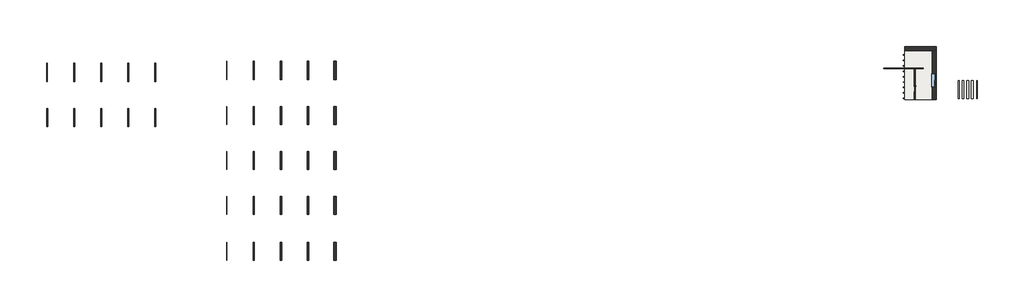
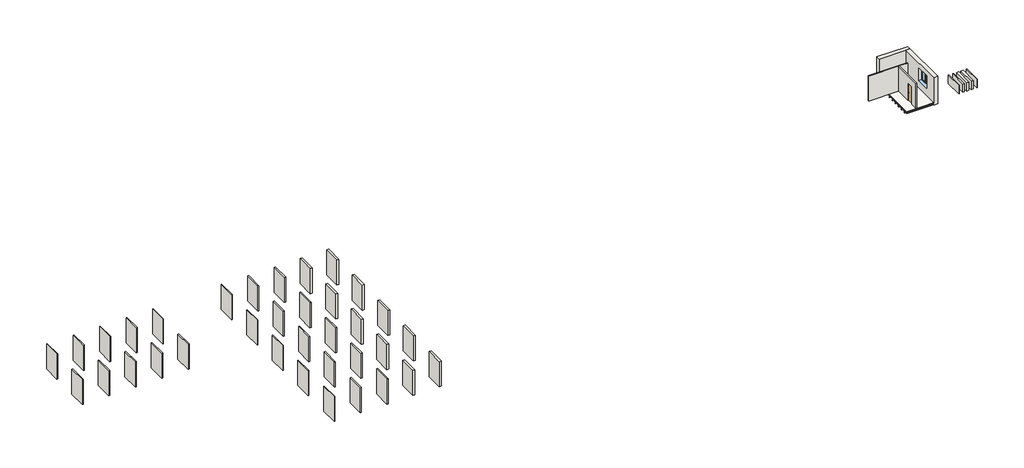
# One storey: 44 walls, 9 beams, 2 windows, 1 door, 1 slab.
"""IFC4 building model written with IfcOpenShell, lengths in millimetres."""

from ifc_helpers import new_model, si_unit, frame, origin, origin_with_axes, place, context, project, spatial, polyline, outline, extrude, faceted_brep, transform, mapped, element, save
from components import beam_0ae76daf, door_b721ba65, window_53c761ac, window_832654c1

model = new_model("IFC4")

# Units and contexts
model_context = context("Model", 3, world=origin())
ifc_project = project(units=[si_unit("LENGTHUNIT", "METRE", prefix="MILLI")], contexts=[model_context])

# Site, building, storey
site = spatial("IfcSite", under=ifc_project)
building = spatial("IfcBuilding", under=site)
storey = spatial("IfcBuildingStorey", under=building, Name="Этаж 1", Elevation=0.0)

# Beams
placement = place(None, origin())
beam_shape = beam_0ae76daf(model_context)
element("IfcBeam", 1, ObjectType="Мерные пиломатериалы : 50х130", at=placement, inside=storey, context=model_context, shape_type="MappedRepresentation", body=[
    mapped(beam_shape, transform((36792.721519, 4771.7721519, -115.0), x_axis=(1.0, 0.0, 0.0), y_axis=(0.0, 1.0, 0.0), z_axis=(0.0, 0.0, 1.0))),
])
element("IfcBeam", 2, ObjectType="Мерные пиломатериалы : 50х130", at=placement, inside=storey, context=model_context, shape_type="MappedRepresentation", body=[
    mapped(beam_shape, transform((36792.721519, 4171.7721519, -115.0), x_axis=(1.0, 0.0, 0.0), y_axis=(0.0, 1.0, 0.0), z_axis=(0.0, 0.0, 1.0))),
])
element("IfcBeam", 3, ObjectType="Мерные пиломатериалы : 50х130", at=placement, inside=storey, context=model_context, shape_type="MappedRepresentation", body=[
    mapped(beam_shape, transform((36792.721519, 3571.7721519, -115.0), x_axis=(1.0, 0.0, 0.0), y_axis=(0.0, 1.0, 0.0), z_axis=(0.0, 0.0, 1.0))),
])
element("IfcBeam", 4, ObjectType="Мерные пиломатериалы : 50х130", at=placement, inside=storey, context=model_context, shape_type="MappedRepresentation", body=[
    mapped(beam_shape, transform((36792.721519, 2971.7721519, -115.0), x_axis=(1.0, 0.0, 0.0), y_axis=(0.0, 1.0, 0.0), z_axis=(0.0, 0.0, 1.0))),
])
element("IfcBeam", 5, ObjectType="Мерные пиломатериалы : 50х130", at=placement, inside=storey, context=model_context, shape_type="MappedRepresentation", body=[
    mapped(beam_shape, transform((36792.721519, 2371.7721519, -115.0), x_axis=(1.0, 0.0, 0.0), y_axis=(0.0, 1.0, 0.0), z_axis=(0.0, 0.0, 1.0))),
])
element("IfcBeam", 6, ObjectType="Мерные пиломатериалы : 50х130", at=placement, inside=storey, context=model_context, shape_type="MappedRepresentation", body=[
    mapped(beam_shape, transform((36792.721519, 1771.7721519, -115.0), x_axis=(1.0, 0.0, 0.0), y_axis=(0.0, 1.0, 0.0), z_axis=(0.0, 0.0, 1.0))),
])
element("IfcBeam", 7, ObjectType="Мерные пиломатериалы : 50х130", at=placement, inside=storey, context=model_context, shape_type="MappedRepresentation", body=[
    mapped(beam_shape, transform((36792.721519, 1171.7721519, -115.0), x_axis=(1.0, 0.0, 0.0), y_axis=(0.0, 1.0, 0.0), z_axis=(0.0, 0.0, 1.0))),
])
element("IfcBeam", 8, ObjectType="Мерные пиломатериалы : 50х130", at=placement, inside=storey, context=model_context, shape_type="MappedRepresentation", body=[
    mapped(beam_shape, transform((36792.721519, 571.7721519, -115.0), x_axis=(1.0, 0.0, 0.0), y_axis=(0.0, 1.0, 0.0), z_axis=(0.0, 0.0, 1.0))),
])
element("IfcBeam", 9, ObjectType="Мерные пиломатериалы : 50х130", at=placement, inside=storey, context=model_context, shape_type="MappedRepresentation", body=[
    mapped(beam_shape, transform((36792.721519, -28.2278481, -115.0), x_axis=(1.0, 0.0, 0.0), y_axis=(0.0, 1.0, 0.0), z_axis=(0.0, 0.0, 1.0))),
])

# Door
door_shape = door_b721ba65(model_context)
element("IfcDoor", 10, ObjectType="Дверь однопольная : дерев.внутр.глух 8х21 Л", at=placement, inside=storey, context=model_context, shape_type="MappedRepresentation", body=[
    mapped(door_shape, transform((36442.721519, 1071.7721519, 0.0), x_axis=(0.0, -1.0, 0.0), y_axis=(1.0, 0.0, 0.0), z_axis=(0.0, 0.0, 1.0))),
])

# Slab
element("IfcSlab", 11, ObjectType="Пол по деревянным лагам по грунту 222мм (Изоляция ЭКОВЕР ЛАЙТ 40 100мм)", at=placement, inside=storey, context=model_context, shape_type="SolidModel", body=[
    faceted_brep([(35367.721519, 5291.7721519, -40.0), (38417.721519, 5291.7721519, -40.0), (38417.721519, -168.2278481, -40.0), (35367.721519, -168.2278481, -40.0), (35367.721519, 5291.7721519, 0.0), (35367.721519, 5271.7721519, 0.0), (35367.721519, -168.2278481, 0.0), (38397.721519, -168.2278481, 0.0), (38417.721519, -168.2278481, 0.0), (38417.721519, 5271.7721519, 0.0), (38417.721519, 5291.7721519, 0.0)], [[[0, 1, 2, 3]], [[4, 5, 6, 7, 8, 9, 10]], [[4, 10, 1, 0]], [[9, 8, 2, 1, 10]], [[7, 6, 3, 2, 8]], [[5, 4, 0, 3, 6]]]),
    extrude(outline(polyline([(35367.721519, 5291.7721519), (38417.721519, 5291.7721519), (38417.721519, -168.2278481), (35367.721519, -168.2278481), (35367.721519, 5291.7721519)])), frame((0.0, 0.0, -90.0), z_axis=(0.0, 0.0, 1.0), x_axis=(1.0, 0.0, 0.0)), (0.0, 0.0, 1.0), 50.0),
    faceted_brep([(38417.721519, 5291.7721519, -222.0), (35367.721519, 5291.7721519, -222.0), (35367.721519, 5291.7721519, -190.0), (38417.721519, 5291.7721519, -190.0), (38417.721519, 5271.7721519, -222.0), (38417.721519, -168.2278481, -190.0), (38417.721519, -168.2278481, -222.0), (38397.721519, -168.2278481, -222.0), (35367.721519, -168.2278481, -190.0), (35367.721519, -168.2278481, -222.0), (35367.721519, 5271.7721519, -222.0)], [[[0, 1, 2, 3]], [[4, 0, 3, 5, 6]], [[7, 6, 5, 8, 9]], [[10, 9, 8, 2, 1]], [[3, 2, 8, 5]], [[1, 0, 4, 6, 7, 9, 10]]]),
    extrude(outline(polyline([(38417.721519, 2946.6874385), (38417.721519, 2396.6874385), (35367.721519, 2396.6874385), (35367.721519, 2946.6874385), (38417.721519, 2946.6874385)])), frame((0.0, 0.0, -190.0), z_axis=(0.0, 0.0, 1.0), x_axis=(1.0, 0.0, 0.0)), (0.0, 0.0, 1.0), 100.0),
    extrude(outline(polyline([(38417.721519, 1146.6874385), (38417.721519, 596.6874385), (35367.721519, 596.6874385), (35367.721519, 1146.6874385), (38417.721519, 1146.6874385)])), frame((0.0, 0.0, -190.0), z_axis=(0.0, 0.0, 1.0), x_axis=(1.0, 0.0, 0.0)), (0.0, 0.0, 1.0), 100.0),
    extrude(outline(polyline([(38417.721519, 1746.6874385), (38417.721519, 1196.6874385), (35367.721519, 1196.6874385), (35367.721519, 1746.6874385), (38417.721519, 1746.6874385)])), frame((0.0, 0.0, -190.0), z_axis=(0.0, 0.0, 1.0), x_axis=(1.0, 0.0, 0.0)), (0.0, 0.0, 1.0), 100.0),
    extrude(outline(polyline([(38417.721519, 2346.6874385), (38417.721519, 1796.6874385), (35367.721519, 1796.6874385), (35367.721519, 2346.6874385), (38417.721519, 2346.6874385)])), frame((0.0, 0.0, -190.0), z_axis=(0.0, 0.0, 1.0), x_axis=(1.0, 0.0, 0.0)), (0.0, 0.0, 1.0), 100.0),
    extrude(outline(polyline([(38417.721519, -168.2278481), (35367.721519, -168.2278481), (35367.721519, 546.6874385), (38417.721519, 546.6874385), (38417.721519, -168.2278481)])), frame((0.0, 0.0, -190.0), z_axis=(0.0, 0.0, 1.0), x_axis=(1.0, 0.0, 0.0)), (0.0, 0.0, 1.0), 100.0),
    extrude(outline(polyline([(35367.721519, 5291.7721519), (38417.721519, 5291.7721519), (38417.721519, 4796.6874385), (35367.721519, 4796.6874385), (35367.721519, 5291.7721519)])), frame((0.0, 0.0, -190.0), z_axis=(0.0, 0.0, 1.0), x_axis=(1.0, 0.0, 0.0)), (0.0, 0.0, 1.0), 100.0),
    extrude(outline(polyline([(38417.721519, 3546.6874385), (38417.721519, 2996.6874385), (35367.721519, 2996.6874385), (35367.721519, 3546.6874385), (38417.721519, 3546.6874385)])), frame((0.0, 0.0, -190.0), z_axis=(0.0, 0.0, 1.0), x_axis=(1.0, 0.0, 0.0)), (0.0, 0.0, 1.0), 100.0),
    extrude(outline(polyline([(38417.721519, 4746.6874385), (38417.721519, 4196.6874385), (35367.721519, 4196.6874385), (35367.721519, 4746.6874385), (38417.721519, 4746.6874385)])), frame((0.0, 0.0, -190.0), z_axis=(0.0, 0.0, 1.0), x_axis=(1.0, 0.0, 0.0)), (0.0, 0.0, 1.0), 100.0),
    extrude(outline(polyline([(38417.721519, 4146.6874385), (38417.721519, 3596.6874385), (35367.721519, 3596.6874385), (35367.721519, 4146.6874385), (38417.721519, 4146.6874385)])), frame((0.0, 0.0, -190.0), z_axis=(0.0, 0.0, 1.0), x_axis=(1.0, 0.0, 0.0)), (0.0, 0.0, 1.0), 100.0),
])

# Walls
element("IfcWall", 12, ObjectType="Утеплитель 50мм (ЭКОВЕР ЛАЙТ  30)", at=placement, inside=storey, context=model_context, shape_type="SweptSolid", body=[
    extrude(outline(polyline([(-39807.278481, 2071.7721519), (-39807.278481, 4071.7721519), (-39757.278481, 4071.7721519), (-39757.278481, 2071.7721519), (-39807.278481, 2071.7721519)])), origin_with_axes(), (0.0, 0.0, 1.0), 3000.0),
])
element("IfcWall", 13, ObjectType="Перегородка с деревянным каркасом 110мм (Изоляция ЭКОВЕР ЛАЙТ 30 50мм)", at=placement, inside=storey, context=model_context, shape_type="SweptSolid", body=[
    extrude(outline(polyline([(-168.2278481, 0.0), (-168.2278481, 3000.0), (3254.2721519, 3000.0), (3254.2721519, 0.0), (1471.7721519, 0.0), (1471.7721519, 2100.0), (671.7721519, 2100.0), (671.7721519, 0.0), (-168.2278481, 0.0)])), frame((36387.721519, 0.0, 0.0), z_axis=(1.0, 0.0, 0.0), x_axis=(0.0, 1.0, 0.0)), (0.0, 0.0, 1.0), 110.0),
])
element("IfcWall", 14, ObjectType="Фасадная система с отделкой кирпичем 455мм (Изоляция ЭКОВЕР ЛАЙТ 45 50мм)", at=placement, inside=storey, context=model_context, shape_type="Brep", body=[
    faceted_brep([(38852.721519, 5726.7721519, -300.0), (35367.721519, 5726.7721519, -300.0), (35367.721519, 5726.7721519, 3000.0), (38852.721519, 5726.7721519, 3000.0), (35367.721519, 5271.7721519, -300.0), (38397.721519, 5271.7721519, -300.0), (38852.721519, 5271.7721519, -300.0), (38852.721519, 5271.7721519, 3000.0), (38397.721519, 5271.7721519, 3000.0), (35367.721519, 5271.7721519, 3000.0), (35367.721519, 5271.7721519, 0.0), (38397.721519, 5271.7721519, 0.0), (38417.721519, 5271.7721519, 0.0), (38417.721519, 5271.7721519, -222.0), (38397.721519, 5271.7721519, -222.0), (35367.721519, 5271.7721519, -222.0), (38417.721519, 5291.7721519, -222.0), (35367.721519, 5291.7721519, -222.0), (35367.721519, 5291.7721519, 0.0), (38417.721519, 5291.7721519, 0.0)], [[[0, 1, 2, 3]], [[4, 5, 6, 7, 8, 9, 10, 11, 12, 13, 14, 15]], [[0, 3, 7, 6]], [[16, 17, 15, 14, 13]], [[18, 19, 12, 11, 10]], [[17, 16, 19, 18]], [[19, 16, 13, 12]], [[1, 0, 6, 5, 4]], [[2, 1, 4, 15, 17, 18, 10, 9]], [[3, 2, 9, 8, 7]]]),
])
element("IfcWall", 15, ObjectType="Утеплитель 100мм (ЭКОВЕР ЛАЙТ  30)", at=placement, inside=storey, context=model_context, shape_type="SweptSolid", body=[
    extrude(outline(polyline([(-36832.278481, 2071.7721519), (-36832.278481, 4071.7721519), (-36732.278481, 4071.7721519), (-36732.278481, 2071.7721519), (-36832.278481, 2071.7721519)])), origin_with_axes(), (0.0, 0.0, 1.0), 3000.0),
])
element("IfcWall", 16, ObjectType="Утеплитель 150мм (ЭКОВЕР ЛАЙТ  30)", at=placement, inside=storey, context=model_context, shape_type="SweptSolid", body=[
    extrude(outline(polyline([(-33857.278481, 2071.7721519), (-33857.278481, 4071.7721519), (-33707.278481, 4071.7721519), (-33707.278481, 2071.7721519), (-33857.278481, 2071.7721519)])), origin_with_axes(), (0.0, 0.0, 1.0), 3000.0),
])
element("IfcWall", 17, ObjectType="Утеплитель 200мм (ЭКОВЕР ЛАЙТ  30)", at=placement, inside=storey, context=model_context, shape_type="SweptSolid", body=[
    extrude(outline(polyline([(-30882.278481, 2071.7721519), (-30882.278481, 4071.7721519), (-30682.278481, 4071.7721519), (-30682.278481, 2071.7721519), (-30882.278481, 2071.7721519)])), origin_with_axes(), (0.0, 0.0, 1.0), 3000.0),
])
element("IfcWall", 18, ObjectType="Утеплитель 250мм (ЭКОВЕР ЛАЙТ  30)", at=placement, inside=storey, context=model_context, shape_type="SweptSolid", body=[
    extrude(outline(polyline([(-27907.278481, 2071.7721519), (-27907.278481, 4071.7721519), (-27657.278481, 4071.7721519), (-27657.278481, 2071.7721519), (-27907.278481, 2071.7721519)])), origin_with_axes(), (0.0, 0.0, 1.0), 3000.0),
])
element("IfcWall", 19, ObjectType="Утеплитель 50мм (ЭКОВЕР ЛАЙТ  35)", at=placement, inside=storey, context=model_context, shape_type="SweptSolid", body=[
    extrude(outline(polyline([(-39807.278481, -2928.2278481), (-39807.278481, -928.2278481), (-39757.278481, -928.2278481), (-39757.278481, -2928.2278481), (-39807.278481, -2928.2278481)])), origin_with_axes(), (0.0, 0.0, 1.0), 3000.0),
])
element("IfcWall", 20, ObjectType="Утеплитель 100мм (ЭКОВЕР ЛАЙТ  35)", at=placement, inside=storey, context=model_context, shape_type="SweptSolid", body=[
    extrude(outline(polyline([(-36832.278481, -2928.2278481), (-36832.278481, -928.2278481), (-36732.278481, -928.2278481), (-36732.278481, -2928.2278481), (-36832.278481, -2928.2278481)])), origin_with_axes(), (0.0, 0.0, 1.0), 3000.0),
])
element("IfcWall", 21, ObjectType="Утеплитель 150мм (ЭКОВЕР ЛАЙТ  35)", at=placement, inside=storey, context=model_context, shape_type="SweptSolid", body=[
    extrude(outline(polyline([(-33857.278481, -2928.2278481), (-33857.278481, -928.2278481), (-33707.278481, -928.2278481), (-33707.278481, -2928.2278481), (-33857.278481, -2928.2278481)])), origin_with_axes(), (0.0, 0.0, 1.0), 3000.0),
])
element("IfcWall", 22, ObjectType="Утеплитель 200мм (ЭКОВЕР ЛАЙТ  35)", at=placement, inside=storey, context=model_context, shape_type="SweptSolid", body=[
    extrude(outline(polyline([(-30882.278481, -2928.2278481), (-30882.278481, -928.2278481), (-30682.278481, -928.2278481), (-30682.278481, -2928.2278481), (-30882.278481, -2928.2278481)])), origin_with_axes(), (0.0, 0.0, 1.0), 3000.0),
])
element("IfcWall", 23, ObjectType="Утеплитель 250мм (ЭКОВЕР ЛАЙТ  35)", at=placement, inside=storey, context=model_context, shape_type="SweptSolid", body=[
    extrude(outline(polyline([(-27907.278481, -2928.2278481), (-27907.278481, -928.2278481), (-27657.278481, -928.2278481), (-27657.278481, -2928.2278481), (-27907.278481, -2928.2278481)])), origin_with_axes(), (0.0, 0.0, 1.0), 3000.0),
])
element("IfcWall", 24, ObjectType="Утеплитель 50мм (ЭКОВЕР ЛАЙТ  40)", at=placement, inside=storey, context=model_context, shape_type="SweptSolid", body=[
    extrude(outline(polyline([(-39807.278481, -7928.2278481), (-39807.278481, -5928.2278481), (-39757.278481, -5928.2278481), (-39757.278481, -7928.2278481), (-39807.278481, -7928.2278481)])), origin_with_axes(), (0.0, 0.0, 1.0), 3000.0),
])
element("IfcWall", 25, ObjectType="Утеплитель 100мм (ЭКОВЕР ЛАЙТ  40)", at=placement, inside=storey, context=model_context, shape_type="SweptSolid", body=[
    extrude(outline(polyline([(-36832.278481, -7928.2278481), (-36832.278481, -5928.2278481), (-36732.278481, -5928.2278481), (-36732.278481, -7928.2278481), (-36832.278481, -7928.2278481)])), origin_with_axes(), (0.0, 0.0, 1.0), 3000.0),
])
element("IfcWall", 26, ObjectType="Утеплитель 150мм (ЭКОВЕР ЛАЙТ  40)", at=placement, inside=storey, context=model_context, shape_type="SweptSolid", body=[
    extrude(outline(polyline([(-33857.278481, -7928.2278481), (-33857.278481, -5928.2278481), (-33707.278481, -5928.2278481), (-33707.278481, -7928.2278481), (-33857.278481, -7928.2278481)])), origin_with_axes(), (0.0, 0.0, 1.0), 3000.0),
])
element("IfcWall", 27, ObjectType="Утеплитель 200мм (ЭКОВЕР ЛАЙТ  40)", at=placement, inside=storey, context=model_context, shape_type="SweptSolid", body=[
    extrude(outline(polyline([(-30882.278481, -7928.2278481), (-30882.278481, -5928.2278481), (-30682.278481, -5928.2278481), (-30682.278481, -7928.2278481), (-30882.278481, -7928.2278481)])), origin_with_axes(), (0.0, 0.0, 1.0), 3000.0),
])
element("IfcWall", 28, ObjectType="Утеплитель 250мм (ЭКОВЕР ЛАЙТ  40)", at=placement, inside=storey, context=model_context, shape_type="SweptSolid", body=[
    extrude(outline(polyline([(-27907.278481, -7928.2278481), (-27907.278481, -5928.2278481), (-27657.278481, -5928.2278481), (-27657.278481, -7928.2278481), (-27907.278481, -7928.2278481)])), origin_with_axes(), (0.0, 0.0, 1.0), 3000.0),
])
element("IfcWall", 29, ObjectType="Утеплитель 50мм (ЭКОВЕР ЛАЙТ  45)", at=placement, inside=storey, context=model_context, shape_type="SweptSolid", body=[
    extrude(outline(polyline([(-39807.278481, -12928.2278481), (-39807.278481, -10928.2278481), (-39757.278481, -10928.2278481), (-39757.278481, -12928.2278481), (-39807.278481, -12928.2278481)])), origin_with_axes(), (0.0, 0.0, 1.0), 3000.0),
])
element("IfcWall", 30, ObjectType="Утеплитель 100мм (ЭКОВЕР ЛАЙТ  45)", at=placement, inside=storey, context=model_context, shape_type="SweptSolid", body=[
    extrude(outline(polyline([(-36832.278481, -12928.2278481), (-36832.278481, -10928.2278481), (-36732.278481, -10928.2278481), (-36732.278481, -12928.2278481), (-36832.278481, -12928.2278481)])), origin_with_axes(), (0.0, 0.0, 1.0), 3000.0),
])
element("IfcWall", 31, ObjectType="Утеплитель 150мм (ЭКОВЕР ЛАЙТ  45)", at=placement, inside=storey, context=model_context, shape_type="SweptSolid", body=[
    extrude(outline(polyline([(-33857.278481, -12928.2278481), (-33857.278481, -10928.2278481), (-33707.278481, -10928.2278481), (-33707.278481, -12928.2278481), (-33857.278481, -12928.2278481)])), origin_with_axes(), (0.0, 0.0, 1.0), 3000.0),
])
element("IfcWall", 32, ObjectType="Утеплитель 200мм (ЭКОВЕР ЛАЙТ  45)", at=placement, inside=storey, context=model_context, shape_type="SweptSolid", body=[
    extrude(outline(polyline([(-30882.278481, -12928.2278481), (-30882.278481, -10928.2278481), (-30682.278481, -10928.2278481), (-30682.278481, -12928.2278481), (-30882.278481, -12928.2278481)])), origin_with_axes(), (0.0, 0.0, 1.0), 3000.0),
])
element("IfcWall", 33, ObjectType="Утеплитель 250мм (ЭКОВЕР ЛАЙТ  45)", at=placement, inside=storey, context=model_context, shape_type="SweptSolid", body=[
    extrude(outline(polyline([(-27907.278481, -12928.2278481), (-27907.278481, -10928.2278481), (-27657.278481, -10928.2278481), (-27657.278481, -12928.2278481), (-27907.278481, -12928.2278481)])), origin_with_axes(), (0.0, 0.0, 1.0), 3000.0),
])
element("IfcWall", 34, ObjectType="Утеплитель 50мм (ЭКОВЕР АКУСТИК)", at=placement, inside=storey, context=model_context, shape_type="SweptSolid", body=[
    extrude(outline(polyline([(-39807.278481, -18028.2278481), (-39807.278481, -16028.2278481), (-39757.278481, -16028.2278481), (-39757.278481, -18028.2278481), (-39807.278481, -18028.2278481)])), origin_with_axes(), (0.0, 0.0, 1.0), 3000.0),
])
element("IfcWall", 35, ObjectType="Утеплитель 100мм (ЭКОВЕР АКУСТИК)", at=placement, inside=storey, context=model_context, shape_type="SweptSolid", body=[
    extrude(outline(polyline([(-36832.278481, -18028.2278481), (-36832.278481, -16028.2278481), (-36732.278481, -16028.2278481), (-36732.278481, -18028.2278481), (-36832.278481, -18028.2278481)])), origin_with_axes(), (0.0, 0.0, 1.0), 3000.0),
])
element("IfcWall", 36, ObjectType="Утеплитель 150мм (ЭКОВЕР АКУСТИК)", at=placement, inside=storey, context=model_context, shape_type="SweptSolid", body=[
    extrude(outline(polyline([(-33857.278481, -18028.2278481), (-33857.278481, -16028.2278481), (-33707.278481, -16028.2278481), (-33707.278481, -18028.2278481), (-33857.278481, -18028.2278481)])), origin_with_axes(), (0.0, 0.0, 1.0), 3000.0),
])
element("IfcWall", 37, ObjectType="Утеплитель 200мм (ЭКОВЕР АКУСТИК)", at=placement, inside=storey, context=model_context, shape_type="SweptSolid", body=[
    extrude(outline(polyline([(-30882.278481, -18028.2278481), (-30882.278481, -16028.2278481), (-30682.278481, -16028.2278481), (-30682.278481, -18028.2278481), (-30882.278481, -18028.2278481)])), origin_with_axes(), (0.0, 0.0, 1.0), 3000.0),
])
element("IfcWall", 38, ObjectType="Утеплитель 250мм (ЭКОВЕР АКУСТИК)", at=placement, inside=storey, context=model_context, shape_type="SweptSolid", body=[
    extrude(outline(polyline([(-27907.278481, -18028.2278481), (-27907.278481, -16028.2278481), (-27657.278481, -16028.2278481), (-27657.278481, -18028.2278481), (-27907.278481, -18028.2278481)])), origin_with_axes(), (0.0, 0.0, 1.0), 3000.0),
])
element("IfcWall", 39, ObjectType="Перегородка с металлическим каркасом 90мм (Изоляция ЭКОВЕР ЛАЙТ 30 50мм)", at=placement, inside=storey, context=model_context, shape_type="SweptSolid", body=[
    extrude(outline(polyline([(-59746.7089758, 1851.7721519), (-59746.7089758, 3851.7721519), (-59656.7089758, 3851.7721519), (-59656.7089758, 1851.7721519), (-59746.7089758, 1851.7721519)])), origin_with_axes(), (0.0, 0.0, 1.0), 3000.0),
])
element("IfcWall", 40, ObjectType="Перегородка с металлическим каркасом 90мм (Изоляция ЭКОВЕР ЛАЙТ 35 50мм)", at=placement, inside=storey, context=model_context, shape_type="SweptSolid", body=[
    extrude(outline(polyline([(-56746.7089758, 1851.7721519), (-56746.7089758, 3851.7721519), (-56656.7089758, 3851.7721519), (-56656.7089758, 1851.7721519), (-56746.7089758, 1851.7721519)])), origin_with_axes(), (0.0, 0.0, 1.0), 3000.0),
])
element("IfcWall", 41, ObjectType="Перегородка с металлическим каркасом 90мм (Изоляция ЭКОВЕР ЛАЙТ 40 50мм)", at=placement, inside=storey, context=model_context, shape_type="SweptSolid", body=[
    extrude(outline(polyline([(-53746.7089758, 1851.7721519), (-53746.7089758, 3851.7721519), (-53656.7089758, 3851.7721519), (-53656.7089758, 1851.7721519), (-53746.7089758, 1851.7721519)])), origin_with_axes(), (0.0, 0.0, 1.0), 3000.0),
])
element("IfcWall", 42, ObjectType="Перегородка с металлическим каркасом 90мм (Изоляция ЭКОВЕР ЛАЙТ 45 50мм)", at=placement, inside=storey, context=model_context, shape_type="SweptSolid", body=[
    extrude(outline(polyline([(-50746.7089758, 1851.7721519), (-50746.7089758, 3851.7721519), (-50656.7089758, 3851.7721519), (-50656.7089758, 1851.7721519), (-50746.7089758, 1851.7721519)])), origin_with_axes(), (0.0, 0.0, 1.0), 3000.0),
])
element("IfcWall", 43, ObjectType="Перегородка с металлическим каркасом 90мм (Изоляция ЭКОВЕР АКУСТИК 50мм)", at=placement, inside=storey, context=model_context, shape_type="SweptSolid", body=[
    extrude(outline(polyline([(-47746.7089758, 1851.7721519), (-47746.7089758, 3851.7721519), (-47656.7089758, 3851.7721519), (-47656.7089758, 1851.7721519), (-47746.7089758, 1851.7721519)])), origin_with_axes(), (0.0, 0.0, 1.0), 3000.0),
])
element("IfcWall", 44, ObjectType="Перегородка с деревянным каркасом 110мм (Изоляция ЭКОВЕР ЛАЙТ 30 50мм)", at=placement, inside=storey, context=model_context, shape_type="SweptSolid", body=[
    extrude(outline(polyline([(-59756.7089758, -3148.2278481), (-59756.7089758, -1148.2278481), (-59646.7089758, -1148.2278481), (-59646.7089758, -3148.2278481), (-59756.7089758, -3148.2278481)])), origin_with_axes(), (0.0, 0.0, 1.0), 3000.0),
])
element("IfcWall", 45, ObjectType="Перегородка с деревянным каркасом 110мм (Изоляция ЭКОВЕР ЛАЙТ 35 50мм)", at=placement, inside=storey, context=model_context, shape_type="SweptSolid", body=[
    extrude(outline(polyline([(-56756.7089758, -3148.2278481), (-56756.7089758, -1148.2278481), (-56646.7089758, -1148.2278481), (-56646.7089758, -3148.2278481), (-56756.7089758, -3148.2278481)])), origin_with_axes(), (0.0, 0.0, 1.0), 3000.0),
])
element("IfcWall", 46, ObjectType="Перегородка с деревянным каркасом 110мм (Изоляция ЭКОВЕР ЛАЙТ 40 50мм)", at=placement, inside=storey, context=model_context, shape_type="SweptSolid", body=[
    extrude(outline(polyline([(-53756.7089758, -3148.2278481), (-53756.7089758, -1148.2278481), (-53646.7089758, -1148.2278481), (-53646.7089758, -3148.2278481), (-53756.7089758, -3148.2278481)])), origin_with_axes(), (0.0, 0.0, 1.0), 3000.0),
])
element("IfcWall", 47, ObjectType="Перегородка с деревянным каркасом 110мм (Изоляция ЭКОВЕР ЛАЙТ 45 50мм)", at=placement, inside=storey, context=model_context, shape_type="SweptSolid", body=[
    extrude(outline(polyline([(-50756.7089758, -3148.2278481), (-50756.7089758, -1148.2278481), (-50646.7089758, -1148.2278481), (-50646.7089758, -3148.2278481), (-50756.7089758, -3148.2278481)])), origin_with_axes(), (0.0, 0.0, 1.0), 3000.0),
])
element("IfcWall", 48, ObjectType="Перегородка с деревянным каркасом 110мм (Изоляция ЭКОВЕР АКУСТИК 50мм)", at=placement, inside=storey, context=model_context, shape_type="SweptSolid", body=[
    extrude(outline(polyline([(-47756.7089758, -3148.2278481), (-47756.7089758, -1148.2278481), (-47646.7089758, -1148.2278481), (-47646.7089758, -3148.2278481), (-47756.7089758, -3148.2278481)])), origin_with_axes(), (0.0, 0.0, 1.0), 3000.0),
])
element("IfcWall", 49, ObjectType="Фасадная система с отделкой кирпичем 455мм (Изоляция ЭКОВЕР ЛАЙТ 30 50мм)", at=placement, inside=storey, context=model_context, shape_type="Brep", body=[
    faceted_brep([(38397.721519, 5271.7721519, -300.0), (38397.721519, -168.2278481, -300.0), (38397.721519, -168.2278481, -222.0), (38397.721519, 5271.7721519, -222.0), (38397.721519, -168.2278481, 3000.0), (38397.721519, 5271.7721519, 3000.0), (38397.721519, 5271.7721519, 0.0), (38397.721519, -168.2278481, 0.0), (38397.721519, 2731.7721519, 2400.0), (38397.721519, 1231.7721519, 2400.0), (38397.721519, 1231.7721519, 900.0), (38397.721519, 2731.7721519, 900.0), (38852.721519, -168.2278481, -300.0), (38852.721519, 5271.7721519, -300.0), (38852.721519, 5271.7721519, 3000.0), (38852.721519, -168.2278481, 3000.0), (38852.721519, 1231.7721519, 2400.0), (38852.721519, 2731.7721519, 2400.0), (38852.721519, 2731.7721519, 900.0), (38852.721519, 1231.7721519, 900.0), (38417.721519, -168.2278481, 0.0), (38417.721519, -168.2278481, -222.0), (38417.721519, 5271.7721519, -222.0), (38417.721519, 5271.7721519, 0.0)], [[[0, 1, 2, 3]], [[4, 5, 6, 7], [8, 9, 10, 11]], [[12, 13, 14, 15], [16, 17, 18, 19]], [[1, 0, 13, 12]], [[12, 15, 4, 7, 20, 21, 2, 1]], [[5, 4, 15, 14]], [[5, 14, 13, 0, 3, 22, 23, 6]], [[21, 22, 3, 2]], [[23, 20, 7, 6]], [[22, 21, 20, 23]], [[17, 16, 9, 8]], [[17, 8, 11, 18]], [[18, 11, 10, 19]], [[19, 10, 9, 16]]]),
])
element("IfcWall", 50, ObjectType="Перегородка с металлическим каркасом 90мм (Изоляция ЭКОВЕР АКУСТИК 50мм)", at=placement, inside=storey, context=model_context, shape_type="Brep", body=[
    faceted_brep([(33032.721519, 3254.2721519, 0.0), (36387.721519, 3254.2721519, 0.0), (36497.721519, 3254.2721519, 0.0), (37432.721519, 3254.2721519, 0.0), (37432.721519, 3254.2721519, 3000.0), (36497.721519, 3254.2721519, 3000.0), (36387.721519, 3254.2721519, 3000.0), (33032.721519, 3254.2721519, 3000.0), (33032.721519, 3344.2721519, 0.0), (33032.721519, 3344.2721519, 3000.0), (37432.721519, 3344.2721519, 3000.0), (37432.721519, 3344.2721519, 0.0)], [[[0, 1, 2, 3, 4, 5, 6, 7]], [[8, 9, 10, 11]], [[3, 2, 1, 0, 8, 11]], [[4, 3, 11, 10]], [[7, 6, 5, 4, 10, 9]], [[0, 7, 9, 8]]]),
])
element("IfcWall", 51, ObjectType="Утеплитель 100мм (ЭКОВЕР ЛАЙТ  30)", at=placement, inside=storey, context=model_context, shape_type="SweptSolid", body=[
    extrude(outline(polyline([(41279.0579845, -58.9566541), (41279.0579845, 1941.0433459), (41379.0579845, 1941.0433459), (41379.0579845, -58.9566541), (41279.0579845, -58.9566541)])), origin_with_axes(), (0.0, 0.0, 1.0), 1000.0),
])
element("IfcWall", 52, ObjectType="Утеплитель 150мм (ЭКОВЕР ЛАЙТ  35)", at=placement, inside=storey, context=model_context, shape_type="SweptSolid", body=[
    extrude(outline(polyline([(41754.0579845, -58.9566541), (41754.0579845, 1941.0433459), (41904.0579845, 1941.0433459), (41904.0579845, -58.9566541), (41754.0579845, -58.9566541)])), origin_with_axes(), (0.0, 0.0, 1.0), 1000.0),
])
element("IfcWall", 53, ObjectType="Утеплитель 200мм (ЭКОВЕР ЛАЙТ  40)", at=placement, inside=storey, context=model_context, shape_type="SweptSolid", body=[
    extrude(outline(polyline([(42229.0579845, -58.9566541), (42229.0579845, 1941.0433459), (42429.0579845, 1941.0433459), (42429.0579845, -58.9566541), (42229.0579845, -58.9566541)])), origin_with_axes(), (0.0, 0.0, 1.0), 1000.0),
])
element("IfcWall", 54, ObjectType="Утеплитель 250мм (ЭКОВЕР ЛАЙТ  45)", at=placement, inside=storey, context=model_context, shape_type="SweptSolid", body=[
    extrude(outline(polyline([(42704.0579845, -58.9566541), (42704.0579845, 1941.0433459), (42954.0579845, 1941.0433459), (42954.0579845, -58.9566541), (42704.0579845, -58.9566541)])), origin_with_axes(), (0.0, 0.0, 1.0), 1000.0),
])
element("IfcWall", 55, ObjectType="Утеплитель 100мм (ЭКОВЕР АКУСТИК)", at=placement, inside=storey, context=model_context, shape_type="SweptSolid", body=[
    extrude(outline(polyline([(43319.0579845, -58.9566541), (43319.0579845, 1941.0433459), (43419.0579845, 1941.0433459), (43419.0579845, -58.9566541), (43319.0579845, -58.9566541)])), origin_with_axes(), (0.0, 0.0, 1.0), 1000.0),
])

# Windows
window_shape = window_53c761ac(model_context)
element("IfcWindow", 56, ObjectType="Окно_2створки : 1460х1460 (створка и глухое)", at=placement, inside=storey, context=model_context, shape_type="MappedRepresentation", body=[
    mapped(window_shape, transform((38625.221519, 1981.7721519, 0.0), x_axis=(0.0, -1.0, 0.0), y_axis=(1.0, 0.0, 0.0), z_axis=(0.0, 0.0, 1.0))),
])
window_2_shape = window_832654c1(model_context)
element("IfcWindow", 57, ObjectType="Окна_Подоконник : ПВХ", at=placement, inside=storey, context=model_context, shape_type="MappedRepresentation", body=[
    mapped(window_2_shape, transform((38727.721519, 1981.7721519, 900.0), x_axis=(0.0, -1.0, 0.0), y_axis=(1.0, 0.0, 0.0), z_axis=(0.0, 0.0, 1.0))),
])

save(model, "model.ifc")
